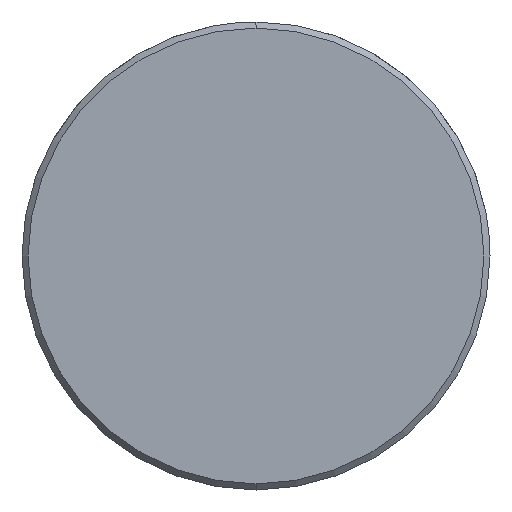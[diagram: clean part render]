
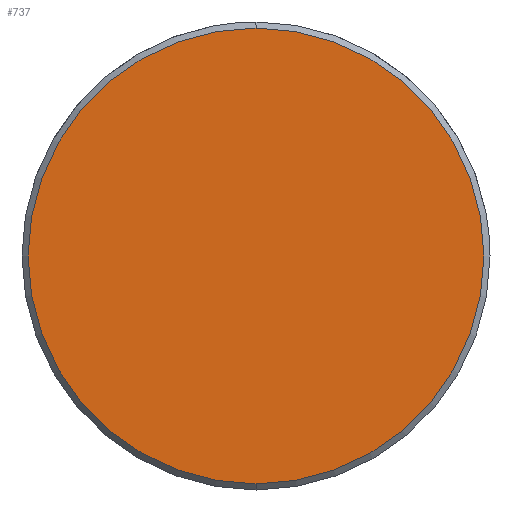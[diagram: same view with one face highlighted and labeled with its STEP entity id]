
A CAD part, left-side view. The second image highlights one B-rep face of the part: STEP entity #737.
In plain terms, the highlighted planar face has unit normal (-1, 0, 0).
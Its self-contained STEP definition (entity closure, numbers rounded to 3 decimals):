
#669=CARTESIAN_POINT('Vertex',(0.,0.,-11.2)) ;
#672=CARTESIAN_POINT('Axis2P3D Location',(0.,0.,0.)) ;
#676=CARTESIAN_POINT('Vertex',(0.,11.2,0.)) ;
#679=CARTESIAN_POINT('Axis2P3D Location',(0.,0.,0.)) ;
#683=CARTESIAN_POINT('Vertex',(0.,0.,11.2)) ;
#705=CARTESIAN_POINT('Axis2P3D Location',(0.,0.,0.)) ;
#709=CARTESIAN_POINT('Vertex',(0.,-11.2,0.)) ;
#712=CARTESIAN_POINT('Axis2P3D Location',(0.,0.,0.)) ;
#726=CARTESIAN_POINT('Axis2P3D Location',(0.,0.,0.)) ;
#673=DIRECTION('Axis2P3D Direction',(1.,0.,-0.)) ;
#680=DIRECTION('Axis2P3D Direction',(1.,0.,-0.)) ;
#706=DIRECTION('Axis2P3D Direction',(1.,0.,-0.)) ;
#713=DIRECTION('Axis2P3D Direction',(1.,0.,-0.)) ;
#727=DIRECTION('Axis2P3D Direction',(1.,0.,-0.)) ;
#728=DIRECTION('Axis2P3D XDirection',(-0.,0.,-1.)) ;
#674=AXIS2_PLACEMENT_3D('Circle Axis2P3D',#672,#673,$) ;
#681=AXIS2_PLACEMENT_3D('Circle Axis2P3D',#679,#680,$) ;
#707=AXIS2_PLACEMENT_3D('Circle Axis2P3D',#705,#706,$) ;
#714=AXIS2_PLACEMENT_3D('Circle Axis2P3D',#712,#713,$) ;
#729=AXIS2_PLACEMENT_3D('Plane Axis2P3D',#726,#727,#728) ;
#732=ORIENTED_EDGE('',*,*,#678,.F.) ;
#733=ORIENTED_EDGE('',*,*,#716,.F.) ;
#734=ORIENTED_EDGE('',*,*,#711,.F.) ;
#735=ORIENTED_EDGE('',*,*,#685,.F.) ;
#737=ADVANCED_FACE('549-20X100',(#736),#730,.F.) ;
#675=CIRCLE('generated circle',#674,11.2) ;
#682=CIRCLE('generated circle',#681,11.2) ;
#708=CIRCLE('generated circle',#707,11.2) ;
#715=CIRCLE('generated circle',#714,11.2) ;
#678=EDGE_CURVE('',#670,#677,#675,.T.) ;
#685=EDGE_CURVE('',#677,#684,#682,.T.) ;
#711=EDGE_CURVE('',#684,#710,#708,.T.) ;
#716=EDGE_CURVE('',#710,#670,#715,.T.) ;
#731=EDGE_LOOP('',(#732,#733,#734,#735)) ;
#736=FACE_OUTER_BOUND('',#731,.T.) ;
#730=PLANE('Plane',#729) ;
#670=VERTEX_POINT('',#669) ;
#677=VERTEX_POINT('',#676) ;
#684=VERTEX_POINT('',#683) ;
#710=VERTEX_POINT('',#709) ;
